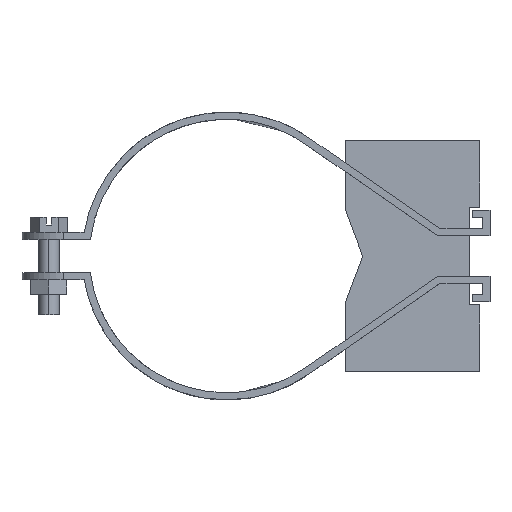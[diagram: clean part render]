
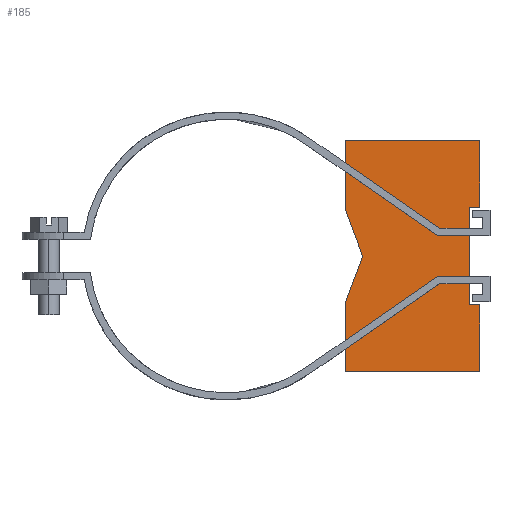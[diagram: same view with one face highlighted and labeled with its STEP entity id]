
A CAD part, top view. The second image highlights one B-rep face of the part: STEP entity #185.
In plain terms, the highlighted planar face has unit normal (0, 0, 1).
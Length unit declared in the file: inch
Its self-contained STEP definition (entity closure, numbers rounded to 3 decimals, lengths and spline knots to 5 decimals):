
#185=ADVANCED_FACE('',(#422),#423,.T.);
#422=FACE_OUTER_BOUND('',#785,.T.);
#423=PLANE('',#786);
#785=EDGE_LOOP('',(#1325,#1326,#1327,#1328,#1329,#1330,#1331,#1332,#1333,#1334,#1335));
#786=AXIS2_PLACEMENT_3D('',#1336,#1337,#1338);
#1325=ORIENTED_EDGE('',*,*,#2021,.F.);
#1326=ORIENTED_EDGE('',*,*,#2107,.F.);
#1327=ORIENTED_EDGE('',*,*,#2067,.F.);
#1328=ORIENTED_EDGE('',*,*,#2108,.F.);
#1329=ORIENTED_EDGE('',*,*,#2053,.F.);
#1330=ORIENTED_EDGE('',*,*,#2109,.F.);
#1331=ORIENTED_EDGE('',*,*,#2048,.F.);
#1332=ORIENTED_EDGE('',*,*,#2110,.F.);
#1333=ORIENTED_EDGE('',*,*,#2111,.F.);
#1334=ORIENTED_EDGE('',*,*,#2112,.F.);
#1335=ORIENTED_EDGE('',*,*,#2113,.F.);
#1336=CARTESIAN_POINT('',(5.51723,2.05082,0.68));
#1337=DIRECTION('',(0.0,-0.0,1.0));
#1338=DIRECTION('',(0.0,1.0,0.0));
#2021=EDGE_CURVE('',#2383,#2384,#2385,.T.);
#2048=EDGE_CURVE('',#2432,#2433,#2434,.T.);
#2053=EDGE_CURVE('',#2441,#2442,#2443,.T.);
#2067=EDGE_CURVE('',#2465,#2466,#2467,.T.);
#2107=EDGE_CURVE('',#2466,#2383,#2537,.T.);
#2108=EDGE_CURVE('',#2442,#2465,#2538,.T.);
#2109=EDGE_CURVE('',#2433,#2441,#2539,.T.);
#2110=EDGE_CURVE('',#2540,#2432,#2541,.T.);
#2111=EDGE_CURVE('',#2542,#2540,#2543,.T.);
#2112=EDGE_CURVE('',#2544,#2542,#2545,.T.);
#2113=EDGE_CURVE('',#2384,#2544,#2546,.T.);
#2383=VERTEX_POINT('',#2923);
#2384=VERTEX_POINT('',#2924);
#2385=LINE('',#2925,#2926);
#2432=VERTEX_POINT('',#2996);
#2433=VERTEX_POINT('',#2997);
#2434=LINE('',#2998,#2999);
#2441=VERTEX_POINT('',#3009);
#2442=VERTEX_POINT('',#3010);
#2443=LINE('',#3011,#3012);
#2465=VERTEX_POINT('',#3042);
#2466=VERTEX_POINT('',#3043);
#2467=LINE('',#3044,#3045);
#2537=LINE('',#3156,#3157);
#2538=LINE('',#3158,#3159);
#2539=LINE('',#3160,#3161);
#2540=VERTEX_POINT('',#3162);
#2541=LINE('',#3163,#3164);
#2542=VERTEX_POINT('',#3165);
#2543=LINE('',#3166,#3167);
#2544=VERTEX_POINT('',#3168);
#2545=LINE('',#3169,#3170);
#2546=LINE('',#3171,#3172);
#2923=CARTESIAN_POINT('',(6.51931,0.30081,0.68));
#2924=CARTESIAN_POINT('',(4.48703,0.30081,0.68));
#2925=CARTESIAN_POINT('',(4.48703,0.30081,0.68));
#2926=VECTOR('',#3730,1.0);
#2996=CARTESIAN_POINT('',(4.48703,3.80083,0.68));
#2997=CARTESIAN_POINT('',(6.51931,3.80083,0.68));
#2998=CARTESIAN_POINT('',(6.51931,3.80083,0.68));
#2999=VECTOR('',#3754,1.0);
#3009=CARTESIAN_POINT('',(6.5192,2.78773,0.68));
#3010=CARTESIAN_POINT('',(6.3665,2.78773,0.68));
#3011=CARTESIAN_POINT('',(6.3665,2.78773,0.68));
#3012=VECTOR('',#3758,1.0);
#3042=CARTESIAN_POINT('',(6.3665,1.31386,0.68));
#3043=CARTESIAN_POINT('',(6.51931,1.31386,0.68));
#3044=CARTESIAN_POINT('',(6.51931,1.31386,0.68));
#3045=VECTOR('',#3773,1.0);
#3156=CARTESIAN_POINT('',(6.51931,0.30081,0.68));
#3157=VECTOR('',#3809,1.0);
#3158=CARTESIAN_POINT('',(6.3665,1.31386,0.68));
#3159=VECTOR('',#3810,1.0);
#3160=CARTESIAN_POINT('',(6.5192,2.78773,0.68));
#3161=VECTOR('',#3811,1.0);
#3162=CARTESIAN_POINT('',(4.48703,2.75061,0.68));
#3163=CARTESIAN_POINT('',(4.48703,3.80083,0.68));
#3164=VECTOR('',#3812,1.0);
#3165=CARTESIAN_POINT('',(4.7495,2.05067,0.68));
#3166=CARTESIAN_POINT('',(4.48703,2.75061,0.68));
#3167=VECTOR('',#3813,1.0);
#3168=CARTESIAN_POINT('',(4.48703,1.35074,0.68));
#3169=CARTESIAN_POINT('',(4.7495,2.05067,0.68));
#3170=VECTOR('',#3814,1.0);
#3171=CARTESIAN_POINT('',(4.48703,1.35074,0.68));
#3172=VECTOR('',#3815,1.0);
#3730=DIRECTION('',(-1.0,0.0,0.0));
#3754=DIRECTION('',(1.0,-0.0,-0.0));
#3758=DIRECTION('',(-1.0,0.0,0.0));
#3773=DIRECTION('',(1.0,-0.0,-0.0));
#3809=DIRECTION('',(0.0,-1.0,-0.0));
#3810=DIRECTION('',(0.0,-1.0,-0.0));
#3811=DIRECTION('',(0.,-1.,0.0));
#3812=DIRECTION('',(0.0,1.0,0.0));
#3813=DIRECTION('',(-0.351,0.936,0.0));
#3814=DIRECTION('',(0.351,0.936,0.0));
#3815=DIRECTION('',(0.0,1.0,0.0));
